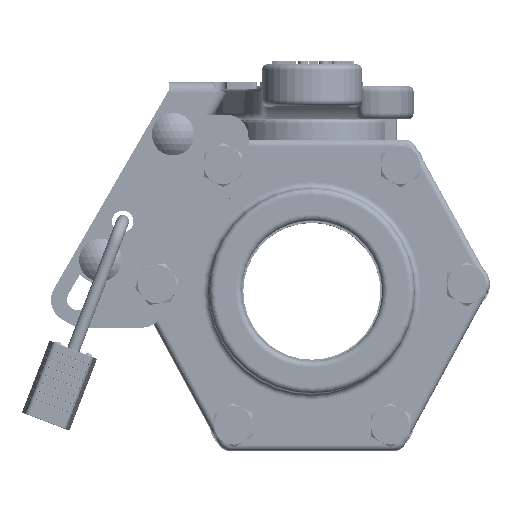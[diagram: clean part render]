
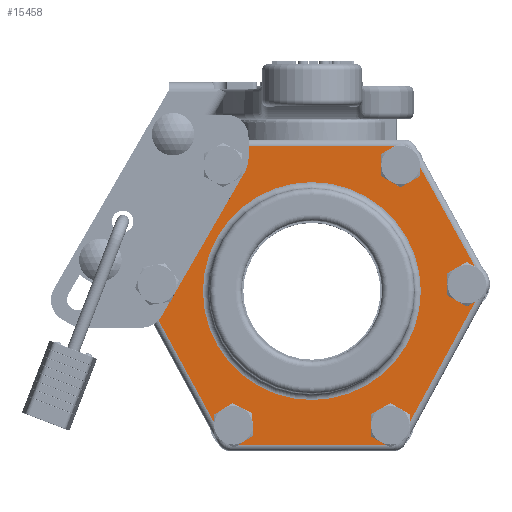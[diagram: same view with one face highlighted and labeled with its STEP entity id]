
A CAD part, top view. The second image highlights one B-rep face of the part: STEP entity #15458.
In plain terms, the highlighted planar face has unit normal (0, 0, 1).
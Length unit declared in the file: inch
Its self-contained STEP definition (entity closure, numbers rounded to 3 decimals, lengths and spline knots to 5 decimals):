
#3647=PLANE('',#19248);
#4577=VECTOR('',#16941,1.);
#4587=VECTOR('',#16990,1.);
#4591=VECTOR('',#17008,1.);
#4595=VECTOR('',#17026,1.);
#4599=VECTOR('',#17044,1.);
#4602=VECTOR('',#17059,1.);
#5348=LINE('',#26662,#4577);
#5358=LINE('',#26714,#4587);
#5362=LINE('',#26730,#4591);
#5366=LINE('',#26746,#4595);
#5370=LINE('',#26762,#4599);
#5373=LINE('',#26774,#4602);
#6500=VERTEX_POINT('',#26644);
#6503=VERTEX_POINT('',#26649);
#6507=VERTEX_POINT('',#26661);
#6526=VERTEX_POINT('',#26705);
#6528=VERTEX_POINT('',#26713);
#6530=VERTEX_POINT('',#26721);
#6532=VERTEX_POINT('',#26729);
#6534=VERTEX_POINT('',#26737);
#6536=VERTEX_POINT('',#26745);
#6538=VERTEX_POINT('',#26752);
#6540=VERTEX_POINT('',#26761);
#6542=VERTEX_POINT('',#26768);
#6543=VERTEX_POINT('',#26779);
#6544=VERTEX_POINT('',#26781);
#6545=VERTEX_POINT('',#26783);
#6546=VERTEX_POINT('',#26785);
#6547=VERTEX_POINT('',#26787);
#6548=VERTEX_POINT('',#26789);
#6549=VERTEX_POINT('',#26791);
#7361=CIRCLE('',#19190,0.254);
#7378=CIRCLE('',#19212,0.254);
#7382=CIRCLE('',#19220,0.254);
#7386=CIRCLE('',#19228,0.254);
#7389=CIRCLE('',#19235,0.254);
#7393=CIRCLE('',#19243,0.254);
#7395=CIRCLE('',#19249,4.0386);
#7396=CIRCLE('',#19250,0.4953);
#7397=CIRCLE('',#19251,0.4953);
#7398=CIRCLE('',#19252,0.4953);
#7399=CIRCLE('',#19253,0.4953);
#7400=CIRCLE('',#19254,0.4953);
#7401=CIRCLE('',#19255,0.4953);
#8553=EDGE_CURVE('',#6503,#6500,#7361,.T.);
#8559=EDGE_CURVE('',#6507,#6503,#5348,.T.);
#8581=EDGE_CURVE('',#6526,#6507,#7378,.T.);
#8585=EDGE_CURVE('',#6528,#6526,#5358,.T.);
#8589=EDGE_CURVE('',#6530,#6528,#7382,.T.);
#8593=EDGE_CURVE('',#6532,#6530,#5362,.T.);
#8597=EDGE_CURVE('',#6534,#6532,#7386,.T.);
#8601=EDGE_CURVE('',#6536,#6534,#5366,.T.);
#8604=EDGE_CURVE('',#6538,#6536,#7389,.T.);
#8609=EDGE_CURVE('',#6540,#6538,#5370,.T.);
#8612=EDGE_CURVE('',#6542,#6540,#7393,.T.);
#8615=EDGE_CURVE('',#6500,#6542,#5373,.T.);
#8617=EDGE_CURVE('',#6543,#6543,#7395,.T.);
#8618=EDGE_CURVE('',#6544,#6544,#7396,.T.);
#8619=EDGE_CURVE('',#6545,#6545,#7397,.T.);
#8620=EDGE_CURVE('',#6546,#6546,#7398,.T.);
#8621=EDGE_CURVE('',#6547,#6547,#7399,.T.);
#8622=EDGE_CURVE('',#6548,#6548,#7400,.T.);
#8623=EDGE_CURVE('',#6549,#6549,#7401,.T.);
#11343=ORIENTED_EDGE('',*,*,#8553,.F.);
#11344=ORIENTED_EDGE('',*,*,#8559,.F.);
#11345=ORIENTED_EDGE('',*,*,#8581,.F.);
#11346=ORIENTED_EDGE('',*,*,#8585,.F.);
#11347=ORIENTED_EDGE('',*,*,#8589,.F.);
#11348=ORIENTED_EDGE('',*,*,#8593,.F.);
#11349=ORIENTED_EDGE('',*,*,#8597,.F.);
#11350=ORIENTED_EDGE('',*,*,#8601,.F.);
#11351=ORIENTED_EDGE('',*,*,#8604,.F.);
#11352=ORIENTED_EDGE('',*,*,#8609,.F.);
#11353=ORIENTED_EDGE('',*,*,#8612,.F.);
#11354=ORIENTED_EDGE('',*,*,#8615,.F.);
#11355=ORIENTED_EDGE('',*,*,#8617,.F.);
#11356=ORIENTED_EDGE('',*,*,#8618,.T.);
#11357=ORIENTED_EDGE('',*,*,#8619,.T.);
#11358=ORIENTED_EDGE('',*,*,#8620,.T.);
#11359=ORIENTED_EDGE('',*,*,#8621,.T.);
#11360=ORIENTED_EDGE('',*,*,#8622,.T.);
#11361=ORIENTED_EDGE('',*,*,#8623,.T.);
#13684=EDGE_LOOP('',(#11343,#11344,#11345,#11346,#11347,#11348,#11349,#11350,
#11351,#11352,#11353,#11354));
#13685=EDGE_LOOP('',(#11355));
#13686=EDGE_LOOP('',(#11356));
#13687=EDGE_LOOP('',(#11357));
#13688=EDGE_LOOP('',(#11358));
#13689=EDGE_LOOP('',(#11359));
#13690=EDGE_LOOP('',(#11360));
#13691=EDGE_LOOP('',(#11361));
#14607=FACE_BOUND('',#13684,.T.);
#14608=FACE_BOUND('',#13685,.T.);
#14609=FACE_BOUND('',#13686,.T.);
#14610=FACE_BOUND('',#13687,.T.);
#14611=FACE_BOUND('',#13688,.T.);
#14612=FACE_BOUND('',#13689,.T.);
#14613=FACE_BOUND('',#13690,.T.);
#14614=FACE_BOUND('',#13691,.T.);
#15458=ADVANCED_FACE('',(#14607,#14608,#14609,#14610,#14611,#14612,#14613,
#14614),#3647,.T.);
#16928=DIRECTION('',(0.,0.,-1.));
#16929=DIRECTION('',(-0.13,-0.218,0.));
#16941=DIRECTION('',(-1.,0.,0.));
#16980=DIRECTION('',(0.,0.,-1.));
#16981=DIRECTION('',(0.13,-0.218,0.));
#16990=DIRECTION('',(-0.477,-0.879,0.));
#16998=DIRECTION('',(0.,0.,-1.));
#16999=DIRECTION('',(0.254,0.001,0.));
#17008=DIRECTION('',(0.483,-0.875,0.));
#17016=DIRECTION('',(0.,0.,-1.));
#17017=DIRECTION('',(0.129,0.219,0.));
#17026=DIRECTION('',(1.,0.,0.));
#17032=DIRECTION('',(0.,0.,-1.));
#17033=DIRECTION('',(-0.129,0.219,0.));
#17044=DIRECTION('',(0.483,0.875,0.));
#17050=DIRECTION('',(0.,0.,-1.));
#17051=DIRECTION('',(-0.254,0.001,0.));
#17059=DIRECTION('',(-0.477,0.879,0.));
#17062=DIRECTION('',(0.,0.,1.));
#17063=DIRECTION('',(0.,0.,1.));
#17064=DIRECTION('',(-4.039,0.,0.));
#17065=DIRECTION('',(0.,0.,-1.));
#17066=DIRECTION('',(0.495,0.,0.));
#17067=DIRECTION('',(0.,0.,-1.));
#17068=DIRECTION('',(0.495,0.,0.));
#17069=DIRECTION('',(0.,0.,-1.));
#17070=DIRECTION('',(0.495,0.,0.));
#17071=DIRECTION('',(0.,0.,-1.));
#17072=DIRECTION('',(0.495,0.,0.));
#17073=DIRECTION('',(0.,0.,-1.));
#17074=DIRECTION('',(0.495,0.,0.));
#17075=DIRECTION('',(0.,0.,-1.));
#17076=DIRECTION('',(0.495,0.,0.));
#19190=AXIS2_PLACEMENT_3D('',#26650,#16928,#16929);
#19212=AXIS2_PLACEMENT_3D('',#26706,#16980,#16981);
#19220=AXIS2_PLACEMENT_3D('',#26722,#16998,#16999);
#19228=AXIS2_PLACEMENT_3D('',#26738,#17016,#17017);
#19235=AXIS2_PLACEMENT_3D('',#26753,#17032,#17033);
#19243=AXIS2_PLACEMENT_3D('',#26769,#17050,#17051);
#19248=AXIS2_PLACEMENT_3D('',#26777,#17062,$);
#19249=AXIS2_PLACEMENT_3D('',#26778,#17063,#17064);
#19250=AXIS2_PLACEMENT_3D('',#26780,#17065,#17066);
#19251=AXIS2_PLACEMENT_3D('',#26782,#17067,#17068);
#19252=AXIS2_PLACEMENT_3D('',#26784,#17069,#17070);
#19253=AXIS2_PLACEMENT_3D('',#26786,#17071,#17072);
#19254=AXIS2_PLACEMENT_3D('',#26788,#17073,#17074);
#19255=AXIS2_PLACEMENT_3D('',#26790,#17075,#17076);
#26644=CARTESIAN_POINT('',(-3.25084,-5.81084,1.9812));
#26649=CARTESIAN_POINT('',(-3.02765,-5.9436,1.9812));
#26650=CARTESIAN_POINT('',(-3.02765,-5.6896,1.9812));
#26661=CARTESIAN_POINT('',(3.02765,-5.9436,1.9812));
#26662=CARTESIAN_POINT('',(0.,-5.9436,1.9812));
#26705=CARTESIAN_POINT('',(3.25084,-5.81084,1.9812));
#26706=CARTESIAN_POINT('',(3.02765,-5.6896,1.9812));
#26713=CARTESIAN_POINT('',(6.34046,-0.12313,1.9812));
#26714=CARTESIAN_POINT('',(4.80796,-2.94434,1.9812));
#26721=CARTESIAN_POINT('',(6.33963,0.12088,1.9812));
#26722=CARTESIAN_POINT('',(6.11727,-0.00189,1.9812));
#26729=CARTESIAN_POINT('',(3.64594,4.99957,1.9812));
#26730=CARTESIAN_POINT('',(5.01017,2.52874,1.9812));
#26737=CARTESIAN_POINT('',(3.42359,5.1308,1.9812));
#26738=CARTESIAN_POINT('',(3.42359,4.8768,1.9812));
#26745=CARTESIAN_POINT('',(-3.42359,5.1308,1.9812));
#26746=CARTESIAN_POINT('',(0.,5.1308,1.9812));
#26752=CARTESIAN_POINT('',(-3.64594,4.99957,1.9812));
#26753=CARTESIAN_POINT('',(-3.42359,4.8768,1.9812));
#26761=CARTESIAN_POINT('',(-6.33963,0.12088,1.9812));
#26762=CARTESIAN_POINT('',(-5.01017,2.52874,1.9812));
#26768=CARTESIAN_POINT('',(-6.34046,-0.12313,1.9812));
#26769=CARTESIAN_POINT('',(-6.11727,-0.00189,1.9812));
#26774=CARTESIAN_POINT('',(-4.80796,-2.94434,1.9812));
#26777=CARTESIAN_POINT('',(0.,-0.29034,1.9812));
#26778=CARTESIAN_POINT('',(0.,-0.254,1.9812));
#26779=CARTESIAN_POINT('',(4.0386,-0.254,1.9812));
#26780=CARTESIAN_POINT('',(-3.2893,4.41706,1.9812));
#26781=CARTESIAN_POINT('',(-3.7846,4.41706,1.9812));
#26782=CARTESIAN_POINT('',(-2.9083,-5.22986,1.9812));
#26783=CARTESIAN_POINT('',(-3.4036,-5.22986,1.9812));
#26784=CARTESIAN_POINT('',(5.7404,-0.00234,1.9812));
#26785=CARTESIAN_POINT('',(5.2451,-0.00234,1.9812));
#26786=CARTESIAN_POINT('',(2.9083,-5.22986,1.9812));
#26787=CARTESIAN_POINT('',(2.413,-5.22986,1.9812));
#26788=CARTESIAN_POINT('',(3.2893,4.41706,1.9812));
#26789=CARTESIAN_POINT('',(2.794,4.41706,1.9812));
#26790=CARTESIAN_POINT('',(-5.7404,-0.00234,1.9812));
#26791=CARTESIAN_POINT('',(-6.2357,-0.00234,1.9812));
